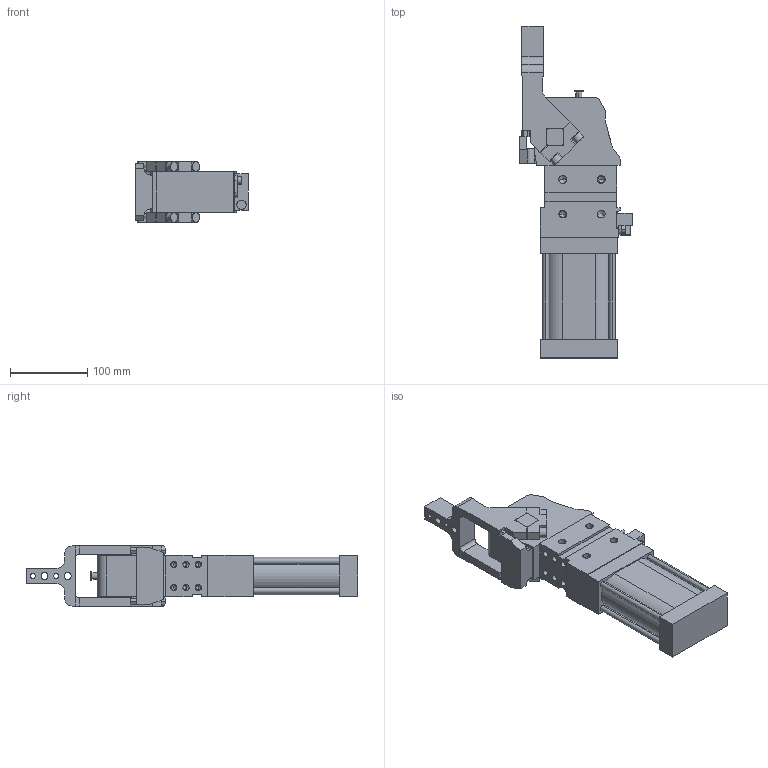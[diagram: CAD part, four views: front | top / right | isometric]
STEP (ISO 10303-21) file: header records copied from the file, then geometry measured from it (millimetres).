
FILE_DESCRIPTION (( 'STEP AP214' ), '1' );
FILE_NAME ('cpl63th1ci1g_107.STEP', '2023-01-26T10:40:00', ( '' ), ( '' ), 'SwSTEP 2.0', 'SolidWorks 2022', '' );
FILE_SCHEMA (( 'AUTOMOTIVE_DESIGN' ));
Length unit declared in the file: millimetre
Products named in the file (4): blocchetto_VEP_0; meccanica_cpl_63_tassello_esterno; cpl63th1ci1g_107; leva_h1c_cpl63t
Assembly tree (3 placements, depth 2):
  cpl63th1ci1g_107
    meccanica_cpl_63_tassello_esterno
    blocchetto_VEP_0
    leva_h1c_cpl63t
Bounding box: 146.5 x 430.5 x 79 mm (x, y, z)
Volume: 1809772.5 mm3; surface area: 194676.6 mm2
Topology: 3 solids, 3 shells, 429 faces, 1132 edges, 701 vertices
Faces by surface type: plane 231, cylinder 148, cone 50
Entity records: 14492 total; most frequent: CARTESIAN_POINT 2304, DIRECTION 2276, ORIENTED_EDGE 2172, EDGE_CURVE 1086, AXIS2_PLACEMENT_3D 763, LINE 750, VECTOR 750, VERTEX_POINT 701
